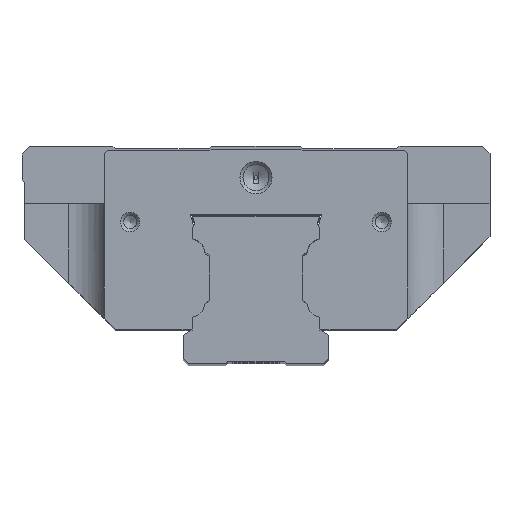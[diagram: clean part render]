
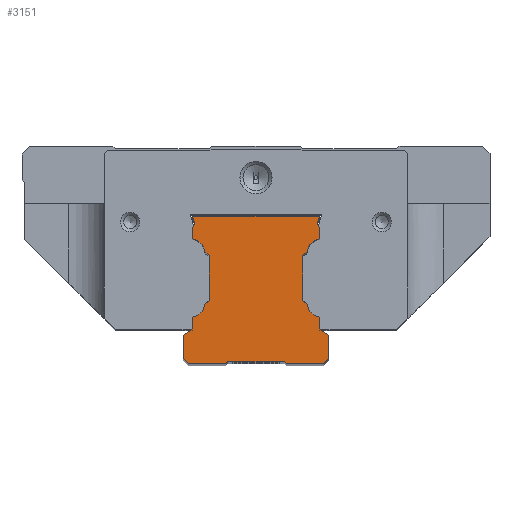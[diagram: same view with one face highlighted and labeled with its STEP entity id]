
A CAD part, top view. The second image highlights one B-rep face of the part: STEP entity #3151.
In plain terms, the highlighted planar face has unit normal (0, 0, 1).
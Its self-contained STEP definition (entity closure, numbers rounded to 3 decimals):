
#83=LINE('',#5624,#403);
#86=LINE('',#5630,#406);
#89=LINE('',#5636,#409);
#93=LINE('',#5645,#413);
#97=LINE('',#5654,#417);
#101=LINE('',#5666,#421);
#104=LINE('',#5672,#424);
#107=LINE('',#5678,#427);
#111=LINE('',#5690,#431);
#114=LINE('',#5696,#434);
#117=LINE('',#5702,#437);
#120=LINE('',#5708,#440);
#124=LINE('',#5715,#444);
#126=LINE('',#5720,#446);
#129=LINE('',#5726,#449);
#134=LINE('',#5741,#454);
#137=LINE('',#5747,#457);
#140=LINE('',#5753,#460);
#142=LINE('',#5756,#462);
#143=LINE('',#5757,#463);
#144=LINE('',#5760,#464);
#145=LINE('',#5762,#465);
#146=LINE('',#5764,#466);
#147=LINE('',#5766,#467);
#148=LINE('',#5768,#468);
#149=LINE('',#5770,#469);
#403=VECTOR('',#4716,1000.);
#406=VECTOR('',#4721,1000.);
#409=VECTOR('',#4726,1000.);
#413=VECTOR('',#4732,1000.);
#417=VECTOR('',#4738,1000.);
#421=VECTOR('',#4750,1000.);
#424=VECTOR('',#4755,1000.);
#427=VECTOR('',#4760,1000.);
#431=VECTOR('',#4772,1000.);
#434=VECTOR('',#4777,1000.);
#437=VECTOR('',#4782,1000.);
#440=VECTOR('',#4787,1000.);
#444=VECTOR('',#4793,1000.);
#446=VECTOR('',#4797,1000.);
#449=VECTOR('',#4802,1000.);
#454=VECTOR('',#4815,1000.);
#457=VECTOR('',#4820,1000.);
#460=VECTOR('',#4825,1000.);
#462=VECTOR('',#4829,1000.);
#463=VECTOR('',#4830,1000.);
#464=VECTOR('',#4833,1000.);
#465=VECTOR('',#4834,1000.);
#466=VECTOR('',#4835,1000.);
#467=VECTOR('',#4836,1000.);
#468=VECTOR('',#4837,1000.);
#469=VECTOR('',#4838,1000.);
#742=PLANE('',#4428);
#938=ORIENTED_EDGE('',*,*,#1702,.F.);
#939=ORIENTED_EDGE('',*,*,#1699,.F.);
#940=ORIENTED_EDGE('',*,*,#1764,.T.);
#941=ORIENTED_EDGE('',*,*,#1705,.F.);
#942=ORIENTED_EDGE('',*,*,#1709,.T.);
#943=ORIENTED_EDGE('',*,*,#1713,.F.);
#944=ORIENTED_EDGE('',*,*,#1734,.F.);
#945=ORIENTED_EDGE('',*,*,#1728,.T.);
#946=ORIENTED_EDGE('',*,*,#1725,.F.);
#947=ORIENTED_EDGE('',*,*,#1722,.F.);
#948=ORIENTED_EDGE('',*,*,#1719,.F.);
#949=ORIENTED_EDGE('',*,*,#1717,.T.);
#950=ORIENTED_EDGE('',*,*,#1731,.F.);
#951=ORIENTED_EDGE('',*,*,#1737,.F.);
#952=ORIENTED_EDGE('',*,*,#1740,.F.);
#953=ORIENTED_EDGE('',*,*,#1744,.T.);
#954=ORIENTED_EDGE('',*,*,#1746,.F.);
#955=ORIENTED_EDGE('',*,*,#1749,.F.);
#956=ORIENTED_EDGE('',*,*,#1765,.T.);
#957=ORIENTED_EDGE('',*,*,#1754,.T.);
#958=ORIENTED_EDGE('',*,*,#1756,.F.);
#959=ORIENTED_EDGE('',*,*,#1759,.F.);
#960=ORIENTED_EDGE('',*,*,#1762,.F.);
#961=ORIENTED_EDGE('',*,*,#1766,.T.);
#962=ORIENTED_EDGE('',*,*,#1767,.T.);
#963=ORIENTED_EDGE('',*,*,#1768,.F.);
#964=ORIENTED_EDGE('',*,*,#1769,.T.);
#965=ORIENTED_EDGE('',*,*,#1770,.F.);
#966=ORIENTED_EDGE('',*,*,#1771,.T.);
#967=ORIENTED_EDGE('',*,*,#1772,.F.);
#1699=EDGE_CURVE('',#2125,#2126,#83,.T.);
#1702=EDGE_CURVE('',#2126,#2128,#86,.T.);
#1705=EDGE_CURVE('',#2130,#2131,#89,.T.);
#1709=EDGE_CURVE('',#2130,#2134,#93,.T.);
#1713=EDGE_CURVE('',#2136,#2134,#97,.T.);
#1717=EDGE_CURVE('',#2141,#2140,#2439,.T.);
#1719=EDGE_CURVE('',#2141,#2142,#101,.T.);
#1722=EDGE_CURVE('',#2142,#2144,#104,.T.);
#1725=EDGE_CURVE('',#2144,#2146,#107,.T.);
#1728=EDGE_CURVE('',#2148,#2146,#2440,.T.);
#1731=EDGE_CURVE('',#2150,#2140,#111,.T.);
#1734=EDGE_CURVE('',#2148,#2136,#114,.T.);
#1737=EDGE_CURVE('',#2152,#2150,#117,.T.);
#1740=EDGE_CURVE('',#2155,#2152,#120,.T.);
#1744=EDGE_CURVE('',#2155,#2157,#124,.T.);
#1746=EDGE_CURVE('',#2158,#2157,#126,.T.);
#1749=EDGE_CURVE('',#2161,#2158,#129,.T.);
#1754=EDGE_CURVE('',#2163,#2165,#2443,.T.);
#1756=EDGE_CURVE('',#2166,#2165,#134,.T.);
#1759=EDGE_CURVE('',#2168,#2166,#137,.T.);
#1762=EDGE_CURVE('',#2171,#2168,#140,.T.);
#1764=EDGE_CURVE('',#2125,#2131,#142,.T.);
#1765=EDGE_CURVE('',#2161,#2163,#143,.T.);
#1766=EDGE_CURVE('',#2171,#2172,#2444,.T.);
#1767=EDGE_CURVE('',#2172,#2173,#144,.T.);
#1768=EDGE_CURVE('',#2174,#2173,#145,.T.);
#1769=EDGE_CURVE('',#2174,#2175,#146,.T.);
#1770=EDGE_CURVE('',#2176,#2175,#147,.T.);
#1771=EDGE_CURVE('',#2176,#2177,#148,.T.);
#1772=EDGE_CURVE('',#2128,#2177,#149,.T.);
#2125=VERTEX_POINT('',#5623);
#2126=VERTEX_POINT('',#5625);
#2128=VERTEX_POINT('',#5631);
#2130=VERTEX_POINT('',#5637);
#2131=VERTEX_POINT('',#5638);
#2134=VERTEX_POINT('',#5646);
#2136=VERTEX_POINT('',#5652);
#2140=VERTEX_POINT('',#5661);
#2141=VERTEX_POINT('',#5663);
#2142=VERTEX_POINT('',#5667);
#2144=VERTEX_POINT('',#5673);
#2146=VERTEX_POINT('',#5679);
#2148=VERTEX_POINT('',#5685);
#2150=VERTEX_POINT('',#5691);
#2152=VERTEX_POINT('',#5700);
#2155=VERTEX_POINT('',#5707);
#2157=VERTEX_POINT('',#5714);
#2158=VERTEX_POINT('',#5718);
#2161=VERTEX_POINT('',#5725);
#2163=VERTEX_POINT('',#5731);
#2165=VERTEX_POINT('',#5735);
#2166=VERTEX_POINT('',#5739);
#2168=VERTEX_POINT('',#5745);
#2171=VERTEX_POINT('',#5752);
#2172=VERTEX_POINT('',#5759);
#2173=VERTEX_POINT('',#5761);
#2174=VERTEX_POINT('',#5763);
#2175=VERTEX_POINT('',#5765);
#2176=VERTEX_POINT('',#5767);
#2177=VERTEX_POINT('',#5769);
#2439=CIRCLE('',#4408,2.86);
#2440=CIRCLE('',#4413,2.86);
#2443=CIRCLE('',#4424,2.86);
#2444=CIRCLE('',#4429,2.86);
#2567=EDGE_LOOP('',(#938,#939,#940,#941,#942,#943,#944,#945,#946,#947,#948,
#949,#950,#951,#952,#953,#954,#955,#956,#957,#958,#959,#960,#961,#962,#963,
#964,#965,#966,#967));
#2839=FACE_BOUND('',#2567,.T.);
#3151=ADVANCED_FACE('',(#2839),#742,.T.);
#4408=AXIS2_PLACEMENT_3D('',#5662,#4745,#4746);
#4413=AXIS2_PLACEMENT_3D('',#5684,#4765,#4766);
#4424=AXIS2_PLACEMENT_3D('',#5736,#4810,#4811);
#4428=AXIS2_PLACEMENT_3D('',#5755,#4827,#4828);
#4429=AXIS2_PLACEMENT_3D('',#5758,#4831,#4832);
#4716=DIRECTION('',(-0.707,0.707,0.));
#4721=DIRECTION('',(-1.,0.,0.));
#4726=DIRECTION('',(-0.707,-0.707,0.));
#4732=DIRECTION('',(0.,1.,0.));
#4738=DIRECTION('',(0.866,-0.5,0.));
#4745=DIRECTION('',(0.,0.,-1.));
#4746=DIRECTION('',(-0.991,0.133,0.));
#4750=DIRECTION('',(-0.707,-0.707,0.));
#4755=DIRECTION('',(0.,-1.,0.));
#4760=DIRECTION('',(0.707,-0.707,0.));
#4765=DIRECTION('',(0.,0.,-1.));
#4766=DIRECTION('',(-0.125,-0.992,0.));
#4772=DIRECTION('',(0.,-1.,0.));
#4777=DIRECTION('',(0.,-1.,0.));
#4782=DIRECTION('',(0.707,-0.707,0.));
#4787=DIRECTION('',(-0.259,-0.966,0.));
#4793=DIRECTION('',(-1.,0.,0.));
#4797=DIRECTION('',(-0.259,0.966,0.));
#4802=DIRECTION('',(0.707,0.707,0.));
#4810=DIRECTION('',(0.,0.,-1.));
#4811=DIRECTION('',(0.125,0.992,0.));
#4815=DIRECTION('',(-0.707,0.707,0.));
#4820=DIRECTION('',(0.,1.,0.));
#4825=DIRECTION('',(0.707,0.707,0.));
#4827=DIRECTION('',(0.,0.,1.));
#4828=DIRECTION('',(1.,0.,0.));
#4829=DIRECTION('',(1.,0.,0.));
#4830=DIRECTION('',(0.,-1.,0.));
#4831=DIRECTION('',(0.,0.,-1.));
#4832=DIRECTION('',(0.991,-0.133,0.));
#4833=DIRECTION('',(0.,-1.,0.));
#4834=DIRECTION('',(0.866,0.5,0.));
#4835=DIRECTION('',(0.,-1.,0.));
#4836=DIRECTION('',(-0.707,0.707,0.));
#4837=DIRECTION('',(1.,0.,0.));
#4838=DIRECTION('',(-0.707,-0.707,0.));
#5623=CARTESIAN_POINT('',(5.8,-16.5,109.381));
#5624=CARTESIAN_POINT('',(5.8,-16.5,109.381));
#5625=CARTESIAN_POINT('',(5.4,-16.1,109.381));
#5630=CARTESIAN_POINT('',(5.4,-16.1,109.381));
#5631=CARTESIAN_POINT('',(-5.4,-16.1,109.381));
#5636=CARTESIAN_POINT('',(14.,-15.5,109.381));
#5637=CARTESIAN_POINT('',(14.,-15.5,109.381));
#5638=CARTESIAN_POINT('',(13.,-16.5,109.381));
#5645=CARTESIAN_POINT('',(14.,-15.5,109.381));
#5646=CARTESIAN_POINT('',(14.,-10.981,109.381));
#5652=CARTESIAN_POINT('',(12.3,-10.,109.381));
#5654=CARTESIAN_POINT('',(12.3,-10.,109.381));
#5661=CARTESIAN_POINT('',(12.3,7.53,109.381));
#5662=CARTESIAN_POINT('',(12.658,4.692,109.381));
#5663=CARTESIAN_POINT('',(9.824,5.074,109.381));
#5666=CARTESIAN_POINT('',(9.824,5.074,109.381));
#5667=CARTESIAN_POINT('',(9.,4.25,109.381));
#5672=CARTESIAN_POINT('',(9.,4.25,109.381));
#5673=CARTESIAN_POINT('',(9.,-4.25,109.381));
#5678=CARTESIAN_POINT('',(9.,-4.25,109.381));
#5679=CARTESIAN_POINT('',(9.824,-5.074,109.381));
#5684=CARTESIAN_POINT('',(12.658,-4.692,109.381));
#5685=CARTESIAN_POINT('',(12.3,-7.53,109.381));
#5690=CARTESIAN_POINT('',(12.3,9.648,109.381));
#5691=CARTESIAN_POINT('',(12.3,9.648,109.381));
#5696=CARTESIAN_POINT('',(12.3,-7.53,109.381));
#5700=CARTESIAN_POINT('',(11.735,10.213,109.381));
#5702=CARTESIAN_POINT('',(11.735,10.213,109.381));
#5707=CARTESIAN_POINT('',(12.173,11.85,109.381));
#5708=CARTESIAN_POINT('',(12.173,11.85,109.381));
#5714=CARTESIAN_POINT('',(-12.173,11.85,109.381));
#5715=CARTESIAN_POINT('',(12.173,11.85,109.381));
#5718=CARTESIAN_POINT('',(-11.735,10.213,109.381));
#5720=CARTESIAN_POINT('',(-11.735,10.213,109.381));
#5725=CARTESIAN_POINT('',(-12.3,9.648,109.381));
#5726=CARTESIAN_POINT('',(-12.3,9.648,109.381));
#5731=CARTESIAN_POINT('',(-12.3,7.53,109.381));
#5735=CARTESIAN_POINT('',(-9.824,5.074,109.381));
#5736=CARTESIAN_POINT('',(-12.658,4.692,109.381));
#5739=CARTESIAN_POINT('',(-9.,4.25,109.381));
#5741=CARTESIAN_POINT('',(-9.,4.25,109.381));
#5745=CARTESIAN_POINT('',(-9.,-4.25,109.381));
#5747=CARTESIAN_POINT('',(-9.,-4.25,109.381));
#5752=CARTESIAN_POINT('',(-9.824,-5.074,109.381));
#5753=CARTESIAN_POINT('',(-9.824,-5.074,109.381));
#5755=CARTESIAN_POINT('',(0.,0.,109.381));
#5756=CARTESIAN_POINT('',(5.8,-16.5,109.381));
#5757=CARTESIAN_POINT('',(-12.3,9.648,109.381));
#5758=CARTESIAN_POINT('',(-12.658,-4.692,109.381));
#5759=CARTESIAN_POINT('',(-12.3,-7.53,109.381));
#5760=CARTESIAN_POINT('',(-12.3,-7.53,109.381));
#5761=CARTESIAN_POINT('',(-12.3,-10.,109.381));
#5762=CARTESIAN_POINT('',(-14.,-10.981,109.381));
#5763=CARTESIAN_POINT('',(-14.,-10.981,109.381));
#5764=CARTESIAN_POINT('',(-14.,-10.981,109.381));
#5765=CARTESIAN_POINT('',(-14.,-15.5,109.381));
#5766=CARTESIAN_POINT('',(-13.,-16.5,109.381));
#5767=CARTESIAN_POINT('',(-13.,-16.5,109.381));
#5768=CARTESIAN_POINT('',(-13.,-16.5,109.381));
#5769=CARTESIAN_POINT('',(-5.8,-16.5,109.381));
#5770=CARTESIAN_POINT('',(-5.4,-16.1,109.381));
